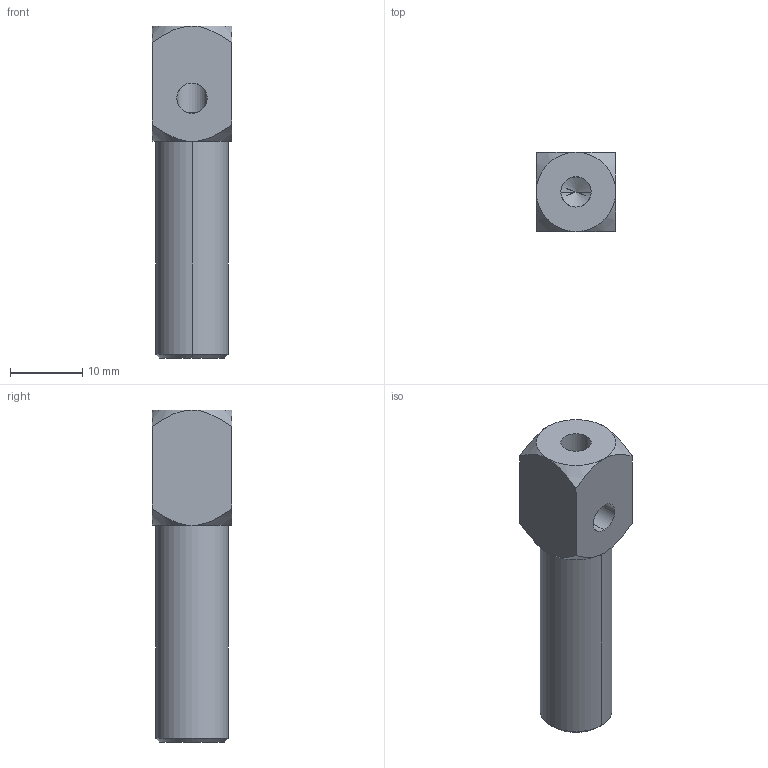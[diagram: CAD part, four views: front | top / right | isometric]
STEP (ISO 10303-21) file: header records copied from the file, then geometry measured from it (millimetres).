
FILE_DESCRIPTION (( 'STEP AP214' ), '1' );
FILE_NAME ('SVE-M51030.STEP', '2023-01-29T03:38:05', ( 'Windows User' ), ( 'P R C' ), 'SwSTEP 2.0', 'SolidWorks 2019', '' );
FILE_SCHEMA (( 'AUTOMOTIVE_DESIGN' ));
Length unit declared in the file: millimetre
Products named in the file (1): SVE-M51030
Bounding box: 11 x 11 x 46 mm (x, y, z)
Volume: 3330.8 mm3; surface area: 2465.1 mm2
Topology: 1 solids, 1 shells, 34 faces, 78 edges, 44 vertices
Faces by surface type: cone 16, cylinder 11, plane 7
Entity records: 1102 total; most frequent: CARTESIAN_POINT 347, DIRECTION 152, ORIENTED_EDGE 148, EDGE_CURVE 74, AXIS2_PLACEMENT_3D 65, VERTEX_POINT 44, EDGE_LOOP 38, ADVANCED_FACE 34
